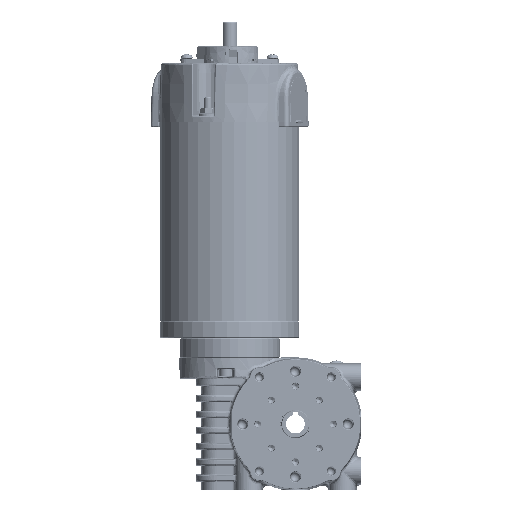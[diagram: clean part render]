
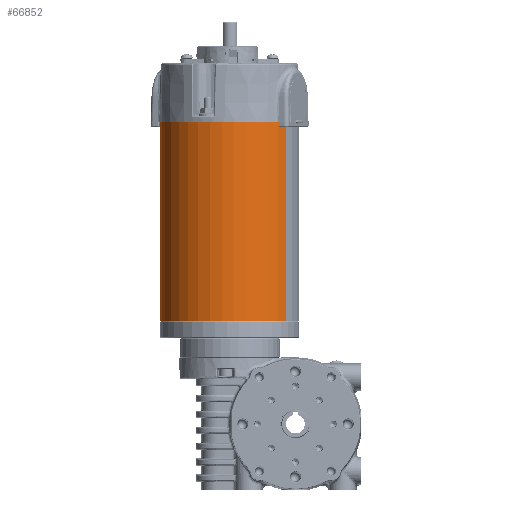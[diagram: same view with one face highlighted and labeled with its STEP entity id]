
A CAD part, left-side view. The second image highlights one B-rep face of the part: STEP entity #66852.
In plain terms, the highlighted cylindrical face has radius 37.15 mm (diameter 74.3 mm), a partial arc.
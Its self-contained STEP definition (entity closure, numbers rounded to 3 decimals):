
#4993 = VECTOR ( 'NONE', #188079, 1000. ) ;
#16210 = EDGE_CURVE ( 'NONE', #259797, #334903, #130952, .T. ) ;
#24630 = ORIENTED_EDGE ( 'NONE', *, *, #312467, .T. ) ;
#37727 = CARTESIAN_POINT ( 'NONE',  ( 27.455, 44.51, 50.358 ) ) ;
#41680 = DIRECTION ( 'NONE',  ( 0., 0., -1. ) ) ;
#41896 = CARTESIAN_POINT ( 'NONE',  ( 5.264, 14.716, 50.358 ) ) ;
#45191 = DIRECTION ( 'NONE',  ( 0.597, 0.802, 0. ) ) ;
#45423 = FACE_OUTER_BOUND ( 'NONE', #292686, .T. ) ;
#66625 = DIRECTION ( 'NONE',  ( 0.597, 0.802, 0. ) ) ;
#66852 = ADVANCED_FACE ( 'NONE', ( #45423 ), #120391, .T. ) ;
#76616 = LINE ( 'NONE', #352519, #316916 ) ;
#79352 = CARTESIAN_POINT ( 'NONE',  ( 27.455, 44.51, 50.358 ) ) ;
#82919 = AXIS2_PLACEMENT_3D ( 'NONE', #41896, #207483, #335696 ) ;
#95116 = CARTESIAN_POINT ( 'NONE',  ( 5.264, 14.716, 156.358 ) ) ;
#99259 = CARTESIAN_POINT ( 'NONE',  ( 27.455, 44.51, 156.358 ) ) ;
#100127 = ORIENTED_EDGE ( 'NONE', *, *, #153393, .F. ) ;
#101634 = DIRECTION ( 'NONE',  ( 0., 0., 1. ) ) ;
#120391 = CYLINDRICAL_SURFACE ( 'NONE', #82919, 37.15 ) ;
#130952 = CIRCLE ( 'NONE', #153773, 37.15 ) ;
#132481 = DIRECTION ( 'NONE',  ( 0., 0., -1. ) ) ;
#135643 = CARTESIAN_POINT ( 'NONE',  ( -16.926, -15.079, 156.358 ) ) ;
#153393 = EDGE_CURVE ( 'NONE', #334903, #315922, #349924, .T. ) ;
#153773 = AXIS2_PLACEMENT_3D ( 'NONE', #292530, #132481, #45191 ) ;
#162947 = VERTEX_POINT ( 'NONE', #135643 ) ;
#188079 = DIRECTION ( 'NONE',  ( 0., 0., 1. ) ) ;
#202075 = AXIS2_PLACEMENT_3D ( 'NONE', #95116, #41680, #66625 ) ;
#207483 = DIRECTION ( 'NONE',  ( 0., 0., 1. ) ) ;
#256871 = ORIENTED_EDGE ( 'NONE', *, *, #280291, .T. ) ;
#257131 = ORIENTED_EDGE ( 'NONE', *, *, #16210, .F. ) ;
#259797 = VERTEX_POINT ( 'NONE', #331530 ) ;
#280291 = EDGE_CURVE ( 'NONE', #162947, #315922, #344224, .T. ) ;
#292530 = CARTESIAN_POINT ( 'NONE',  ( 5.264, 14.716, 50.358 ) ) ;
#292686 = EDGE_LOOP ( 'NONE', ( #100127, #257131, #24630, #256871 ) ) ;
#312467 = EDGE_CURVE ( 'NONE', #259797, #162947, #76616, .T. ) ;
#315922 = VERTEX_POINT ( 'NONE', #99259 ) ;
#316916 = VECTOR ( 'NONE', #101634, 1000. ) ;
#331530 = CARTESIAN_POINT ( 'NONE',  ( -16.926, -15.079, 50.358 ) ) ;
#334903 = VERTEX_POINT ( 'NONE', #37727 ) ;
#335696 = DIRECTION ( 'NONE',  ( -0.597, -0.802, 0. ) ) ;
#344224 = CIRCLE ( 'NONE', #202075, 37.15 ) ;
#349924 = LINE ( 'NONE', #79352, #4993 ) ;
#352519 = CARTESIAN_POINT ( 'NONE',  ( -16.926, -15.079, 50.358 ) ) ;
